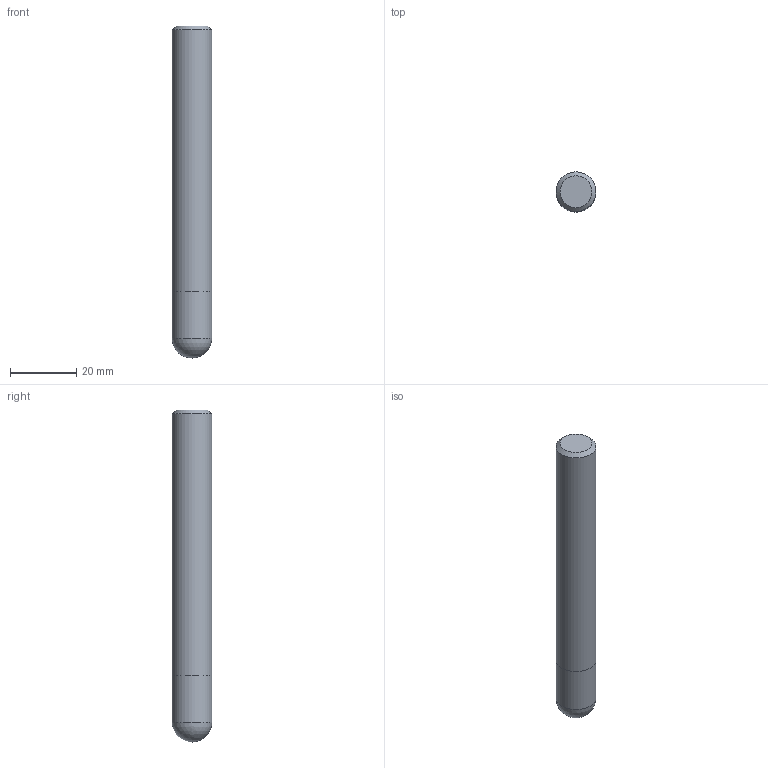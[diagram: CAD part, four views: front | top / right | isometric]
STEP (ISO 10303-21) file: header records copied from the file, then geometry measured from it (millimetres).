
FILE_DESCRIPTION((''),'2;1');
FILE_NAME('C:\Users\nsx150\AppData\Local\Temp\Mastercam 2021\98T1Q6BTT1\TEMP.step','2021-10-21T14:55:38',(''),(''),'STEP Write','Mastercam 2021 ... CNC Software, Inc.','');
FILE_SCHEMA(('AUTOMOTIVE_DESIGN'));
Length unit declared in the file: millimetre
Products named in the file (1): None
Bounding box: 12 x 12 x 100 mm (x, y, z)
Volume: 11058.2 mm3; surface area: 4080.8 mm2
Topology: 2 solids, 2 shells, 7 faces, 10 edges, 6 vertices
Faces by surface type: plane 3, cylinder 2, sphere 1, cone 1
Full cylindrical faces by diameter (mm): 12 x2
Entity records: 169 total; most frequent: DIRECTION 28, CARTESIAN_POINT 19, AXIS2_PLACEMENT_3D 14, ORIENTED_EDGE 10, EDGE_LOOP 10, STYLED_ITEM 10, ADVANCED_FACE 7, VERTEX_POINT 5
